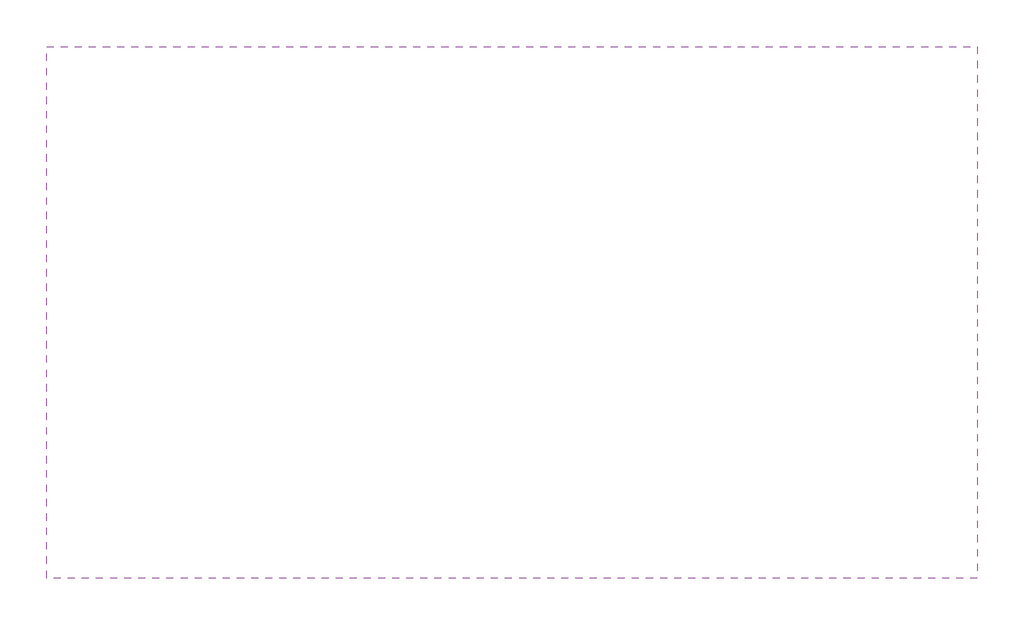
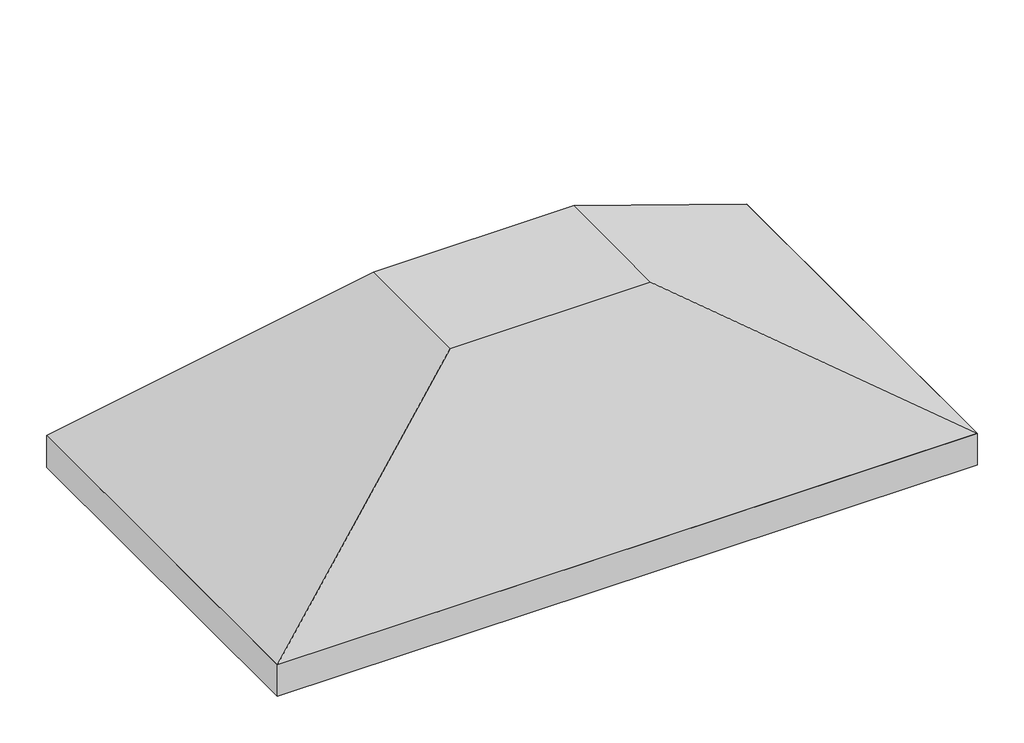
# One storey: 1 proxy.
"""IFC4 building model written with IfcOpenShell, lengths in millimetres."""

from ifc_helpers import new_model, si_unit, origin, place, context, project, spatial, transform, mapped, element, save
from components import mechanical_equipment_47fa911b

model = new_model("IFC4")

# Units and contexts
model_context = context("Model", 3, world=origin())
ifc_project = project(units=[si_unit("LENGTHUNIT", "METRE", prefix="MILLI")], contexts=[model_context])

# Site, building, storey
site = spatial("IfcSite", under=ifc_project)
building = spatial("IfcBuilding", under=site)
storey = spatial("IfcBuildingStorey", under=building, Name="Térreo (-60cm)", Elevation=52050.0)

# Proxy
placement = place(None, origin())
mechanical_equipment_shape = mechanical_equipment_47fa911b(model_context)
element("IfcBuildingElementProxy", 1, Name="Coifa2 : Coifa", ObjectType="Coifa2 : Coifa", at=placement, inside=storey, context=model_context, shape_type="MappedRepresentation", body=[
    mapped(mechanical_equipment_shape, transform((0.0, 0.0, 0.0), x_axis=(1.0, 0.0, 0.0), y_axis=(0.0, 1.0, 0.0), z_axis=(0.0, 0.0, 1.0))),
])

save(model, "model.ifc")
